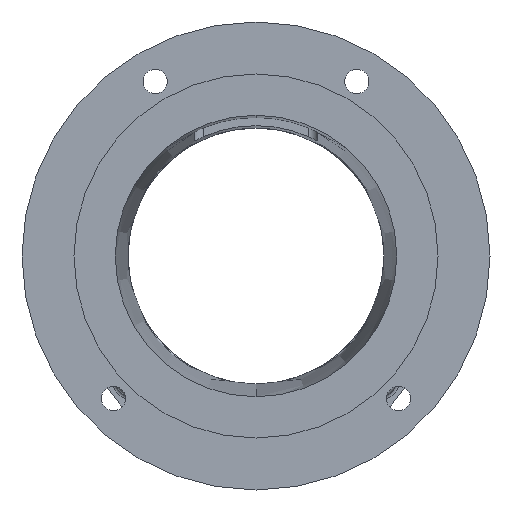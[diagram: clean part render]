
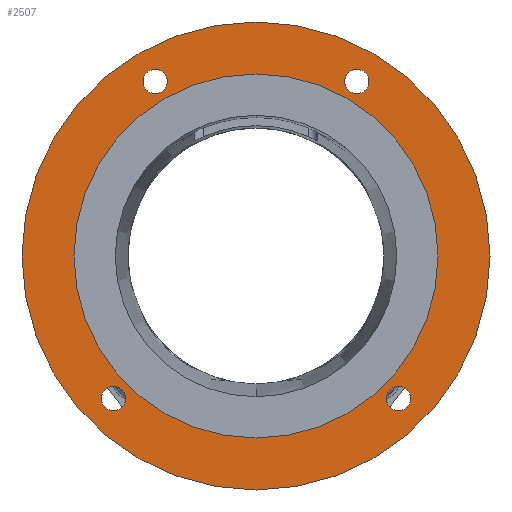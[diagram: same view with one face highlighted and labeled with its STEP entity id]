
A CAD part, front view. The second image highlights one B-rep face of the part: STEP entity #2507.
In plain terms, the highlighted planar face has unit normal (0, -1, 0).
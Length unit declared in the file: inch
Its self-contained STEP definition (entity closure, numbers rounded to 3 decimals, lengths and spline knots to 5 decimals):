
#152 = VERTEX_POINT ( 'NONE', #4556 ) ;
#237 = ORIENTED_EDGE ( 'NONE', *, *, #8151, .F. ) ;
#263 = EDGE_LOOP ( 'NONE', ( #3187, #6007 ) ) ;
#281 = VERTEX_POINT ( 'NONE', #3622 ) ;
#300 = AXIS2_PLACEMENT_3D ( 'NONE', #779, #633, #630 ) ;
#335 = CARTESIAN_POINT ( 'NONE',  ( -2.74004, 0., -2.74004 ) ) ;
#385 = CARTESIAN_POINT ( 'NONE',  ( 0., 0., 4.5 ) ) ;
#437 = CIRCLE ( 'NONE', #5248, 0.23438 ) ;
#449 = AXIS2_PLACEMENT_3D ( 'NONE', #2197, #2081, #1790 ) ;
#512 = CARTESIAN_POINT ( 'NONE',  ( 0., 0., -3.501 ) ) ;
#562 = VERTEX_POINT ( 'NONE', #2541 ) ;
#630 = DIRECTION ( 'NONE',  ( 0., 0., 1. ) ) ;
#633 = DIRECTION ( 'NONE',  ( 0., 1., 0. ) ) ;
#664 = EDGE_LOOP ( 'NONE', ( #4457, #875 ) ) ;
#694 = PLANE ( 'NONE',  #300 ) ;
#716 = AXIS2_PLACEMENT_3D ( 'NONE', #6691, #6666, #5565 ) ;
#779 = CARTESIAN_POINT ( 'NONE',  ( -4.5, 0., 0. ) ) ;
#875 = ORIENTED_EDGE ( 'NONE', *, *, #4435, .T. ) ;
#1003 = DIRECTION ( 'NONE',  ( 0., 0., -1. ) ) ;
#1263 = FACE_BOUND ( 'NONE', #5395, .T. ) ;
#1293 = ORIENTED_EDGE ( 'NONE', *, *, #6160, .F. ) ;
#1513 = CIRCLE ( 'NONE', #1647, 0.23438 ) ;
#1531 = DIRECTION ( 'NONE',  ( 0., -1., 0. ) ) ;
#1647 = AXIS2_PLACEMENT_3D ( 'NONE', #7430, #7388, #7362 ) ;
#1790 = DIRECTION ( 'NONE',  ( 0., 0., -1. ) ) ;
#1807 = ORIENTED_EDGE ( 'NONE', *, *, #4838, .F. ) ;
#1949 = CARTESIAN_POINT ( 'NONE',  ( 0., 0., 0. ) ) ;
#2014 = EDGE_LOOP ( 'NONE', ( #7792, #3709 ) ) ;
#2062 = ORIENTED_EDGE ( 'NONE', *, *, #7334, .F. ) ;
#2081 = DIRECTION ( 'NONE',  ( 0., -1., 0. ) ) ;
#2197 = CARTESIAN_POINT ( 'NONE',  ( -1.9375, 0., 3.35585 ) ) ;
#2255 = EDGE_LOOP ( 'NONE', ( #1293, #237 ) ) ;
#2258 = VERTEX_POINT ( 'NONE', #2330 ) ;
#2288 = AXIS2_PLACEMENT_3D ( 'NONE', #2897, #2859, #2853 ) ;
#2301 = DIRECTION ( 'NONE',  ( 0., 0., -1. ) ) ;
#2330 = CARTESIAN_POINT ( 'NONE',  ( -2.74004, 0., -2.50566 ) ) ;
#2352 = DIRECTION ( 'NONE',  ( 0., -1., 0. ) ) ;
#2507 = ADVANCED_FACE ( 'NONE', ( #5063, #6532, #4846, #3052, #1263, #7911 ), #694, .F. ) ;
#2541 = CARTESIAN_POINT ( 'NONE',  ( 0., 0., -4.5 ) ) ;
#2625 = EDGE_CURVE ( 'NONE', #281, #152, #437, .T. ) ;
#2627 = DIRECTION ( 'NONE',  ( 0., 0., -1. ) ) ;
#2743 = AXIS2_PLACEMENT_3D ( 'NONE', #5587, #1531, #6201 ) ;
#2828 = AXIS2_PLACEMENT_3D ( 'NONE', #5703, #2352, #2301 ) ;
#2853 = DIRECTION ( 'NONE',  ( 0., 0., -1. ) ) ;
#2859 = DIRECTION ( 'NONE',  ( 0., -1., 0. ) ) ;
#2880 = CIRCLE ( 'NONE', #7914, 0.23438 ) ;
#2897 = CARTESIAN_POINT ( 'NONE',  ( 0., 0., 0. ) ) ;
#3052 = FACE_BOUND ( 'NONE', #263, .T. ) ;
#3187 = ORIENTED_EDGE ( 'NONE', *, *, #6703, .F. ) ;
#3214 = CARTESIAN_POINT ( 'NONE',  ( 1.9375, 0., 3.59022 ) ) ;
#3412 = CIRCLE ( 'NONE', #2828, 3.501 ) ;
#3420 = DIRECTION ( 'NONE',  ( 0., 0., -1. ) ) ;
#3441 = AXIS2_PLACEMENT_3D ( 'NONE', #3470, #3447, #3420 ) ;
#3447 = DIRECTION ( 'NONE',  ( 0., -1., 0. ) ) ;
#3470 = CARTESIAN_POINT ( 'NONE',  ( -1.9375, 0., 3.35585 ) ) ;
#3599 = CIRCLE ( 'NONE', #5296, 4.5 ) ;
#3622 = CARTESIAN_POINT ( 'NONE',  ( 2.74004, 0., -2.50566 ) ) ;
#3709 = ORIENTED_EDGE ( 'NONE', *, *, #4719, .F. ) ;
#3839 = VERTEX_POINT ( 'NONE', #3214 ) ;
#3973 = DIRECTION ( 'NONE',  ( 0., -1., 0. ) ) ;
#4435 = EDGE_CURVE ( 'NONE', #6286, #562, #7329, .T. ) ;
#4457 = ORIENTED_EDGE ( 'NONE', *, *, #7642, .T. ) ;
#4486 = CARTESIAN_POINT ( 'NONE',  ( 1.9375, 0., 3.12147 ) ) ;
#4556 = CARTESIAN_POINT ( 'NONE',  ( 2.74004, 0., -2.97441 ) ) ;
#4627 = EDGE_CURVE ( 'NONE', #2258, #7281, #1513, .T. ) ;
#4683 = CIRCLE ( 'NONE', #449, 0.23438 ) ;
#4719 = EDGE_CURVE ( 'NONE', #5196, #5518, #7614, .T. ) ;
#4781 = CIRCLE ( 'NONE', #5697, 0.23438 ) ;
#4838 = EDGE_CURVE ( 'NONE', #4863, #8112, #3412, .T. ) ;
#4846 = FACE_BOUND ( 'NONE', #7401, .T. ) ;
#4863 = VERTEX_POINT ( 'NONE', #5050 ) ;
#4923 = CARTESIAN_POINT ( 'NONE',  ( -1.9375, 0., 3.59022 ) ) ;
#4964 = AXIS2_PLACEMENT_3D ( 'NONE', #7740, #3973, #8318 ) ;
#5039 = DIRECTION ( 'NONE',  ( 0., -1., 0. ) ) ;
#5050 = CARTESIAN_POINT ( 'NONE',  ( 0., 0., 3.501 ) ) ;
#5063 = FACE_BOUND ( 'NONE', #2014, .T. ) ;
#5086 = CIRCLE ( 'NONE', #2743, 3.501 ) ;
#5196 = VERTEX_POINT ( 'NONE', #4923 ) ;
#5248 = AXIS2_PLACEMENT_3D ( 'NONE', #6682, #6297, #6663 ) ;
#5296 = AXIS2_PLACEMENT_3D ( 'NONE', #1949, #6547, #2627 ) ;
#5301 = ORIENTED_EDGE ( 'NONE', *, *, #2625, .F. ) ;
#5379 = VERTEX_POINT ( 'NONE', #4486 ) ;
#5395 = EDGE_LOOP ( 'NONE', ( #2062, #1807 ) ) ;
#5518 = VERTEX_POINT ( 'NONE', #7067 ) ;
#5536 = DIRECTION ( 'NONE',  ( 0., 0., -1. ) ) ;
#5562 = DIRECTION ( 'NONE',  ( 0., -1., 0. ) ) ;
#5565 = DIRECTION ( 'NONE',  ( 0., 0., -1. ) ) ;
#5587 = CARTESIAN_POINT ( 'NONE',  ( 0., 0., 0. ) ) ;
#5697 = AXIS2_PLACEMENT_3D ( 'NONE', #7034, #5562, #5536 ) ;
#5703 = CARTESIAN_POINT ( 'NONE',  ( 0., 0., 0. ) ) ;
#5841 = CIRCLE ( 'NONE', #716, 0.23438 ) ;
#5968 = EDGE_CURVE ( 'NONE', #5518, #5196, #4683, .T. ) ;
#6007 = ORIENTED_EDGE ( 'NONE', *, *, #4627, .F. ) ;
#6160 = EDGE_CURVE ( 'NONE', #5379, #3839, #5841, .T. ) ;
#6171 = CIRCLE ( 'NONE', #4964, 0.23438 ) ;
#6201 = DIRECTION ( 'NONE',  ( 0., 0., -1. ) ) ;
#6286 = VERTEX_POINT ( 'NONE', #385 ) ;
#6297 = DIRECTION ( 'NONE',  ( 0., -1., 0. ) ) ;
#6363 = EDGE_CURVE ( 'NONE', #152, #281, #4781, .T. ) ;
#6532 = FACE_BOUND ( 'NONE', #2255, .T. ) ;
#6547 = DIRECTION ( 'NONE',  ( 0., -1., 0. ) ) ;
#6663 = DIRECTION ( 'NONE',  ( 0., 0., -1. ) ) ;
#6666 = DIRECTION ( 'NONE',  ( 0., -1., 0. ) ) ;
#6682 = CARTESIAN_POINT ( 'NONE',  ( 2.74004, 0., -2.74004 ) ) ;
#6691 = CARTESIAN_POINT ( 'NONE',  ( 1.9375, 0., 3.35585 ) ) ;
#6703 = EDGE_CURVE ( 'NONE', #7281, #2258, #2880, .T. ) ;
#7034 = CARTESIAN_POINT ( 'NONE',  ( 2.74004, 0., -2.74004 ) ) ;
#7067 = CARTESIAN_POINT ( 'NONE',  ( -1.9375, 0., 3.12147 ) ) ;
#7281 = VERTEX_POINT ( 'NONE', #7341 ) ;
#7329 = CIRCLE ( 'NONE', #2288, 4.5 ) ;
#7334 = EDGE_CURVE ( 'NONE', #8112, #4863, #5086, .T. ) ;
#7341 = CARTESIAN_POINT ( 'NONE',  ( -2.74004, 0., -2.97441 ) ) ;
#7362 = DIRECTION ( 'NONE',  ( 0., 0., -1. ) ) ;
#7388 = DIRECTION ( 'NONE',  ( 0., -1., 0. ) ) ;
#7401 = EDGE_LOOP ( 'NONE', ( #8224, #5301 ) ) ;
#7430 = CARTESIAN_POINT ( 'NONE',  ( -2.74004, 0., -2.74004 ) ) ;
#7614 = CIRCLE ( 'NONE', #3441, 0.23438 ) ;
#7642 = EDGE_CURVE ( 'NONE', #562, #6286, #3599, .T. ) ;
#7740 = CARTESIAN_POINT ( 'NONE',  ( 1.9375, 0., 3.35585 ) ) ;
#7792 = ORIENTED_EDGE ( 'NONE', *, *, #5968, .F. ) ;
#7911 = FACE_OUTER_BOUND ( 'NONE', #664, .T. ) ;
#7914 = AXIS2_PLACEMENT_3D ( 'NONE', #335, #5039, #1003 ) ;
#8112 = VERTEX_POINT ( 'NONE', #512 ) ;
#8151 = EDGE_CURVE ( 'NONE', #3839, #5379, #6171, .T. ) ;
#8224 = ORIENTED_EDGE ( 'NONE', *, *, #6363, .F. ) ;
#8318 = DIRECTION ( 'NONE',  ( 0., 0., -1. ) ) ;
